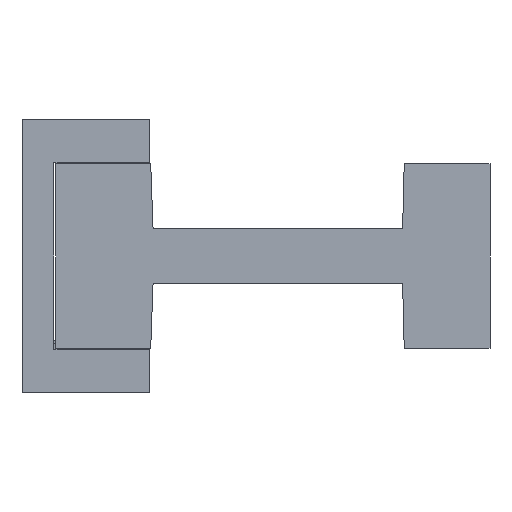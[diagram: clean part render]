
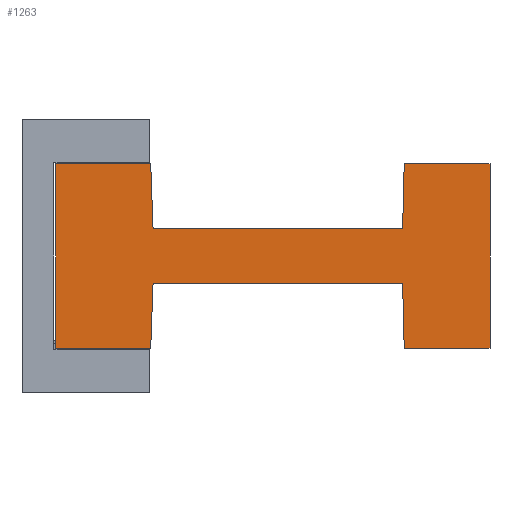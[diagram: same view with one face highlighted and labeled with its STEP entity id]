
A CAD part, left-side view. The second image highlights one B-rep face of the part: STEP entity #1263.
In plain terms, the highlighted planar face has unit normal (-1, 0, 0).
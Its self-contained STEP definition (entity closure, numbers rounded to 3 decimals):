
#6 = LINE ( 'NONE', #1226, #882 ) ;
#25 = VERTEX_POINT ( 'NONE', #3232 ) ;
#47 = ORIENTED_EDGE ( 'NONE', *, *, #711, .T. ) ;
#52 = CARTESIAN_POINT ( 'NONE',  ( 118.513, -16.8, 240.61 ) ) ;
#73 = LINE ( 'NONE', #1300, #1449 ) ;
#107 = EDGE_CURVE ( 'NONE', #2264, #582, #316, .T. ) ;
#130 = DIRECTION ( 'NONE',  ( 0., 1., 0. ) ) ;
#131 = ORIENTED_EDGE ( 'NONE', *, *, #170, .F. ) ;
#170 = EDGE_CURVE ( 'NONE', #2989, #3131, #651, .T. ) ;
#192 = LINE ( 'NONE', #2735, #242 ) ;
#195 = VECTOR ( 'NONE', #130, 1000. ) ;
#203 = CARTESIAN_POINT ( 'NONE',  ( 118.513, -48.8, 240.61 ) ) ;
#209 = DIRECTION ( 'NONE',  ( 0., 1., 0. ) ) ;
#242 = VECTOR ( 'NONE', #209, 1000. ) ;
#257 = CARTESIAN_POINT ( 'NONE',  ( 118.513, -48.8, 247.61 ) ) ;
#293 = CARTESIAN_POINT ( 'NONE',  ( 118.513, -60., 232.26 ) ) ;
#316 = LINE ( 'NONE', #2814, #3187 ) ;
#401 = DIRECTION ( 'NONE',  ( 0., 0.024, -1. ) ) ;
#433 = DIRECTION ( 'NONE',  ( 0., 0., 1. ) ) ;
#469 = CARTESIAN_POINT ( 'NONE',  ( 118.513, -60., 244.11 ) ) ;
#477 = DIRECTION ( 'NONE',  ( 0., 1., 0. ) ) ;
#502 = DIRECTION ( 'NONE',  ( 0., 1., 0. ) ) ;
#541 = DIRECTION ( 'NONE',  ( 0., 1., 0. ) ) ;
#582 = VERTEX_POINT ( 'NONE', #1778 ) ;
#596 = EDGE_CURVE ( 'NONE', #2019, #2528, #2757, .T. ) ;
#651 = LINE ( 'NONE', #2697, #699 ) ;
#680 = LINE ( 'NONE', #1190, #2779 ) ;
#699 = VECTOR ( 'NONE', #967, 1000. ) ;
#711 = EDGE_CURVE ( 'NONE', #2264, #2019, #73, .T. ) ;
#772 = CARTESIAN_POINT ( 'NONE',  ( 118.513, -60., 255.96 ) ) ;
#870 = ORIENTED_EDGE ( 'NONE', *, *, #2357, .T. ) ;
#882 = VECTOR ( 'NONE', #502, 1000. ) ;
#967 = DIRECTION ( 'NONE',  ( 0., 1., 0. ) ) ;
#987 = CARTESIAN_POINT ( 'NONE',  ( 118.513, -4.3, 255.96 ) ) ;
#1130 = ORIENTED_EDGE ( 'NONE', *, *, #596, .T. ) ;
#1175 = FACE_OUTER_BOUND ( 'NONE', #1885, .T. ) ;
#1190 = CARTESIAN_POINT ( 'NONE',  ( 118.513, -16.8, 240.61 ) ) ;
#1202 = DIRECTION ( 'NONE',  ( 0., 0.036, -0.999 ) ) ;
#1226 = CARTESIAN_POINT ( 'NONE',  ( 118.513, -16.8, 247.61 ) ) ;
#1227 = ORIENTED_EDGE ( 'NONE', *, *, #1834, .T. ) ;
#1238 = VERTEX_POINT ( 'NONE', #2439 ) ;
#1239 = VECTOR ( 'NONE', #2513, 1000. ) ;
#1263 = ADVANCED_FACE ( 'NONE', ( #1175 ), #3177, .T. ) ;
#1269 = ORIENTED_EDGE ( 'NONE', *, *, #1942, .T. ) ;
#1300 = CARTESIAN_POINT ( 'NONE',  ( 118.513, -60., 244.11 ) ) ;
#1344 = CARTESIAN_POINT ( 'NONE',  ( 118.513, -49., 255.96 ) ) ;
#1437 = CARTESIAN_POINT ( 'NONE',  ( 118.513, -16.8, 247.61 ) ) ;
#1449 = VECTOR ( 'NONE', #1840, 1000. ) ;
#1517 = VERTEX_POINT ( 'NONE', #257 ) ;
#1659 = LINE ( 'NONE', #2668, #2995 ) ;
#1697 = DIRECTION ( 'NONE',  ( -1., 0., 0. ) ) ;
#1699 = LINE ( 'NONE', #203, #1239 ) ;
#1778 = CARTESIAN_POINT ( 'NONE',  ( 118.513, -49., 232.26 ) ) ;
#1834 = EDGE_CURVE ( 'NONE', #2904, #25, #192, .T. ) ;
#1840 = DIRECTION ( 'NONE',  ( 0., 0., 1. ) ) ;
#1852 = EDGE_CURVE ( 'NONE', #3131, #1238, #680, .T. ) ;
#1853 = LINE ( 'NONE', #2878, #195 ) ;
#1878 = CARTESIAN_POINT ( 'NONE',  ( 118.513, -16.5, 255.96 ) ) ;
#1879 = CARTESIAN_POINT ( 'NONE',  ( 118.513, -16.8, 247.61 ) ) ;
#1885 = EDGE_LOOP ( 'NONE', ( #1269, #3018, #1961, #131, #2978, #2788, #47, #1130, #870, #2760, #2331, #1227 ) ) ;
#1936 = EDGE_CURVE ( 'NONE', #1238, #2754, #1853, .T. ) ;
#1942 = EDGE_CURVE ( 'NONE', #25, #2754, #2241, .T. ) ;
#1961 = ORIENTED_EDGE ( 'NONE', *, *, #1852, .F. ) ;
#1968 = VECTOR ( 'NONE', #477, 1000. ) ;
#1982 = EDGE_CURVE ( 'NONE', #2333, #2904, #2185, .T. ) ;
#1992 = DIRECTION ( 'NONE',  ( 0., 0., -1. ) ) ;
#2010 = EDGE_CURVE ( 'NONE', #582, #2989, #1699, .T. ) ;
#2019 = VERTEX_POINT ( 'NONE', #2263 ) ;
#2080 = AXIS2_PLACEMENT_3D ( 'NONE', #469, #1697, #433 ) ;
#2185 = LINE ( 'NONE', #1437, #2672 ) ;
#2241 = LINE ( 'NONE', #987, #2399 ) ;
#2263 = CARTESIAN_POINT ( 'NONE',  ( 118.513, -60., 255.96 ) ) ;
#2264 = VERTEX_POINT ( 'NONE', #293 ) ;
#2324 = CARTESIAN_POINT ( 'NONE',  ( 118.513, -4.3, 232.26 ) ) ;
#2331 = ORIENTED_EDGE ( 'NONE', *, *, #1982, .T. ) ;
#2333 = VERTEX_POINT ( 'NONE', #1879 ) ;
#2357 = EDGE_CURVE ( 'NONE', #2528, #1517, #1659, .T. ) ;
#2399 = VECTOR ( 'NONE', #1992, 1000. ) ;
#2439 = CARTESIAN_POINT ( 'NONE',  ( 118.513, -16.5, 232.26 ) ) ;
#2467 = EDGE_CURVE ( 'NONE', #1517, #2333, #6, .T. ) ;
#2479 = DIRECTION ( 'NONE',  ( 0., 0.036, 0.999 ) ) ;
#2513 = DIRECTION ( 'NONE',  ( 0., 0.024, 1. ) ) ;
#2528 = VERTEX_POINT ( 'NONE', #1344 ) ;
#2654 = CARTESIAN_POINT ( 'NONE',  ( 118.513, -48.8, 240.61 ) ) ;
#2668 = CARTESIAN_POINT ( 'NONE',  ( 118.513, -48.8, 247.61 ) ) ;
#2672 = VECTOR ( 'NONE', #2479, 1000. ) ;
#2697 = CARTESIAN_POINT ( 'NONE',  ( 118.513, -16.8, 240.61 ) ) ;
#2735 = CARTESIAN_POINT ( 'NONE',  ( 118.513, -4.3, 255.96 ) ) ;
#2754 = VERTEX_POINT ( 'NONE', #2324 ) ;
#2757 = LINE ( 'NONE', #772, #1968 ) ;
#2760 = ORIENTED_EDGE ( 'NONE', *, *, #2467, .T. ) ;
#2779 = VECTOR ( 'NONE', #1202, 1000. ) ;
#2788 = ORIENTED_EDGE ( 'NONE', *, *, #107, .F. ) ;
#2814 = CARTESIAN_POINT ( 'NONE',  ( 118.513, -60., 232.26 ) ) ;
#2878 = CARTESIAN_POINT ( 'NONE',  ( 118.513, -4.3, 232.26 ) ) ;
#2904 = VERTEX_POINT ( 'NONE', #1878 ) ;
#2978 = ORIENTED_EDGE ( 'NONE', *, *, #2010, .F. ) ;
#2989 = VERTEX_POINT ( 'NONE', #2654 ) ;
#2995 = VECTOR ( 'NONE', #401, 1000. ) ;
#3018 = ORIENTED_EDGE ( 'NONE', *, *, #1936, .F. ) ;
#3131 = VERTEX_POINT ( 'NONE', #52 ) ;
#3177 = PLANE ( 'NONE',  #2080 ) ;
#3187 = VECTOR ( 'NONE', #541, 1000. ) ;
#3232 = CARTESIAN_POINT ( 'NONE',  ( 118.513, -4.3, 255.96 ) ) ;
